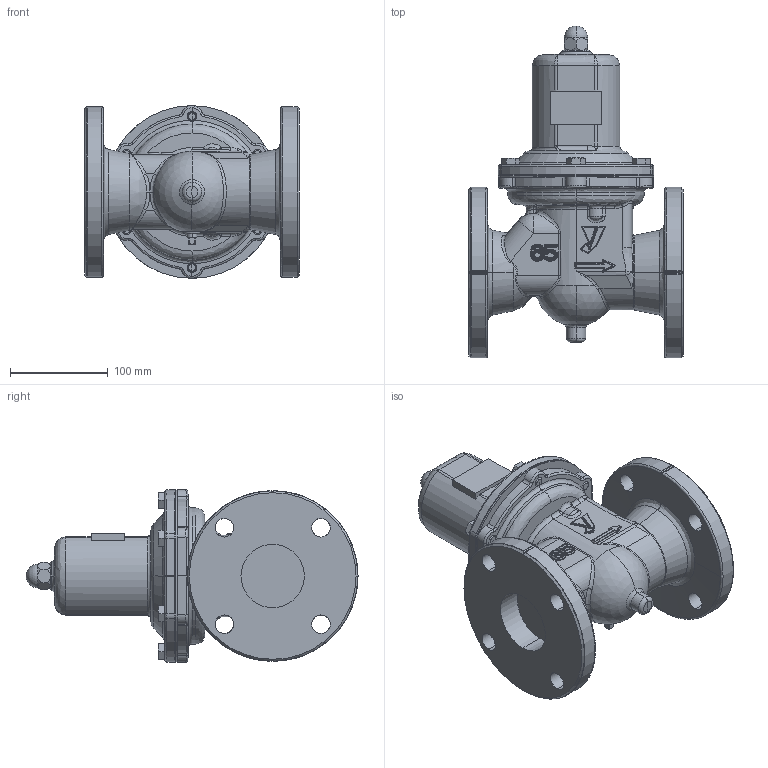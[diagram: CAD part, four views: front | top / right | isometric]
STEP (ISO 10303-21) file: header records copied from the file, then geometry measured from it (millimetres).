
FILE_DESCRIPTION( (''), '2;1');
FILE_NAME ('PC1276.8.GD-27-NE 65A_31069.stp','2025-06-09T15:22:18',(''),(''),'spGate 20.6.3 (****-****-****-****)','','');
FILE_SCHEMA (('AUTOMOTIVE_DESIGN'));
Length unit declared in the file: millimetre
Products named in the file (6): Assembly; GD-27_65A_弁箱; 保護筒 65-80A; CP_''_JIS B 1183 六角袋ナット 3形 M''_705; 四角プラグ R1／8; CP_''_JIS B 1180 呼び径六角ボルト''_17166
Assembly tree (10 placements, depth 2):
  Assembly
    GD-27_65A_弁箱
    保護筒 65-80A
    CP_''_JIS B 1183 六角袋ナット 3形 M''_705
    四角プラグ R1／8
    CP_''_JIS B 1180 呼び径六角ボルト''_17166  x6
Bounding box: 220 x 340.5 x 177 mm (x, y, z)
Volume: 2924300.4 mm3; surface area: 383201.5 mm2
Topology: 10 solids, 10 shells, 813 faces, 1922 edges, 1085 vertices
Faces by surface type: bspline 370, cylinder 229, plane 165, sphere 49
Entity records: 47314 total; most frequent: CARTESIAN_POINT 20504, ORIENTED_EDGE 3218, DIRECTION 2413, COLOUR_RGB 2307, PRESENTATION_STYLE_ASSIGNMENT 2307, STYLED_ITEM 2307, EDGE_CURVE 1609, DRAUGHTING_PRE_DEFINED_CURVE_FONT 1609
